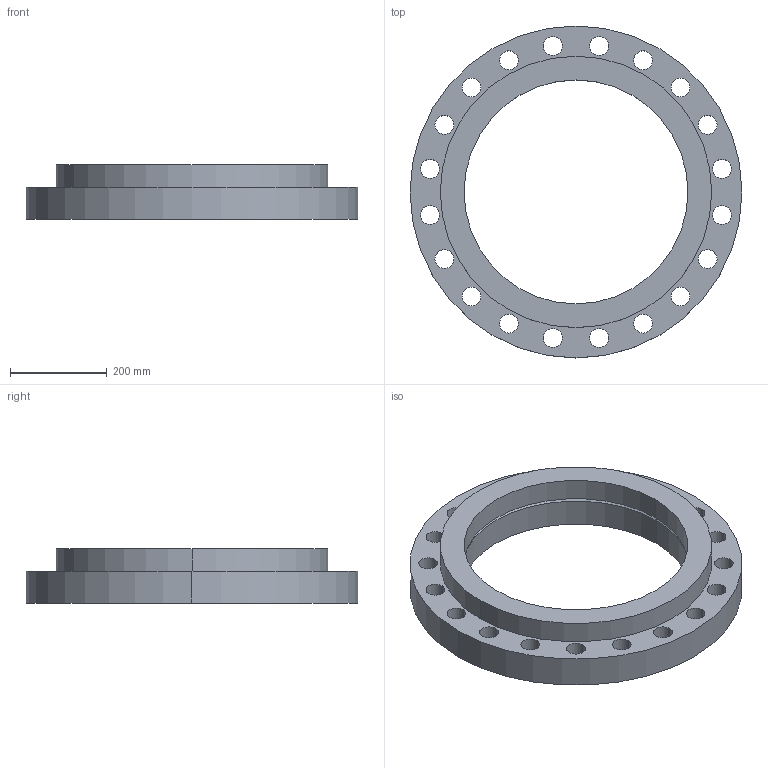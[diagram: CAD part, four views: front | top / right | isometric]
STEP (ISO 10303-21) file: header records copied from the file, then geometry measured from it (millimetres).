
FILE_DESCRIPTION (( 'STEP AP214' ), '1' );
FILE_NAME ('PN40 DN450 Type 02 in 32 - (Type A Face).STEP', '2018-12-29T02:49:56', ( '' ), ( '' ), 'SwSTEP 2.0', 'SolidWorks 2019', '' );
FILE_SCHEMA (( 'AUTOMOTIVE_DESIGN' ));
Length unit declared in the file: millimetre
Products named in the file (1): PN40 DN450 Type 02 in 32 - (Type A Face)
Bounding box: 685 x 685 x 112 mm (x, y, z)
Volume: 15012079.6 mm3; surface area: 1045515.8 mm2
Topology: 2 solids, 2 shells, 54 faces, 148 edges, 98 vertices
Faces by surface type: cylinder 48, plane 4, cone 2
Entity records: 1905 total; most frequent: DIRECTION 356, CARTESIAN_POINT 301, ORIENTED_EDGE 296, AXIS2_PLACEMENT_3D 153, EDGE_CURVE 148, VERTEX_POINT 98, EDGE_LOOP 98, CIRCLE 98
